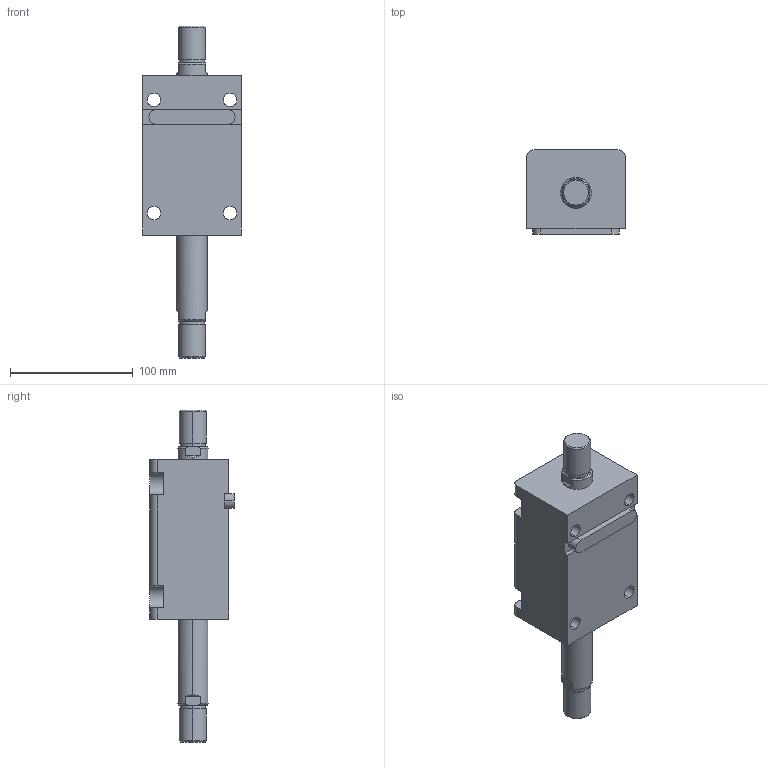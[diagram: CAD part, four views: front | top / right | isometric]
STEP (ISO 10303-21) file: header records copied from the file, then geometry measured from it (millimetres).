
FILE_DESCRIPTION (( 'STEP AP203' ), '1' );
FILE_NAME ('HTB-LW40-60W.STEP', '2019-10-09T07:57:04', ( '微软用户' ), ( '微软中国' ), 'SwSTEP 2.0', 'SolidWorks 2012', '' );
FILE_SCHEMA (( 'CONFIG_CONTROL_DESIGN' ));
Length unit declared in the file: millimetre
Products named in the file (4): HTB-LW40-60W; HTB-LA40-瑩; HTB-LW40-60W活塞杆; HTB-LW40-60掛极
Assembly tree (3 placements, depth 2):
  HTB-LW40-60W
    HTB-LW40-60掛极
    HTB-LW40-60W活塞杆
    HTB-LA40-瑩
Bounding box: 80 x 68.5 x 270 mm (x, y, z)
Volume: 647512.4 mm3; surface area: 97186.1 mm2
Topology: 3 solids, 3 shells, 113 faces, 273 edges, 178 vertices
Faces by surface type: plane 48, cylinder 45, cone 12, torus 8
Entity records: 3779 total; most frequent: CARTESIAN_POINT 622, DIRECTION 617, ORIENTED_EDGE 546, EDGE_CURVE 273, AXIS2_PLACEMENT_3D 241, VERTEX_POINT 178, VECTOR 135, LINE 135
